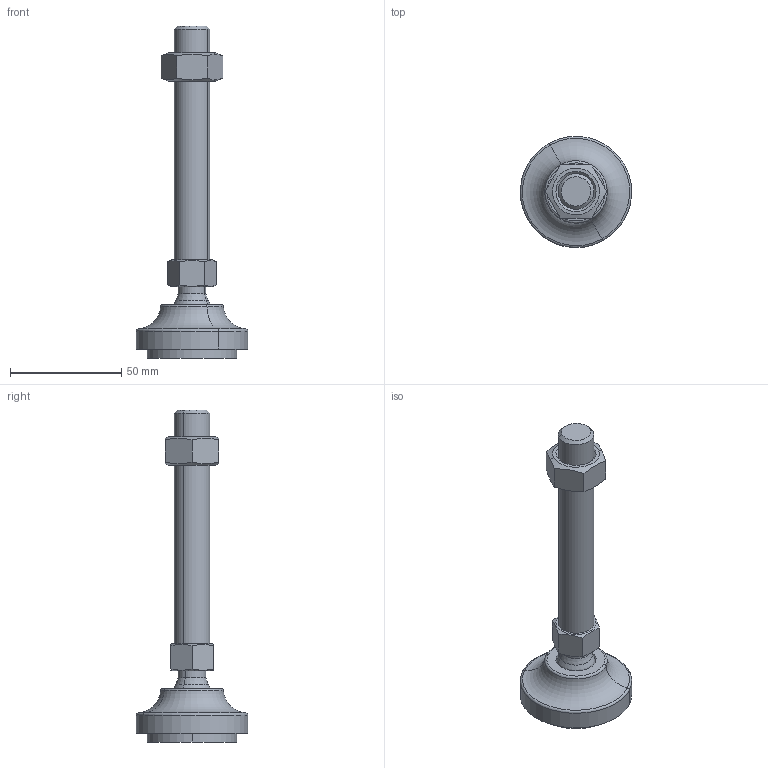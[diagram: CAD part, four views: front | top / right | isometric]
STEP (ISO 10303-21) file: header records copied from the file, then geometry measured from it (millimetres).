
FILE_DESCRIPTION(('CATIA V5 STEP Exchange'),'2;1');
FILE_NAME('C:\Users\ALI OZGUN\Desktop\alhan\saplama2\560501615AV.stp','2017-09-21T10:29:32+00:00',('none'),('none'),'CATIA Version 5 Release 21 GA (IN-10)','CATIA V5 STEP AP203','none');
FILE_SCHEMA(('CONFIG_CONTROL_DESIGN'));
Length unit declared in the file: millimetre
Products named in the file (1): 560501615AV
Bounding box: 49.99 x 49.99 x 149 mm (x, y, z)
Volume: 61118.9 mm3; surface area: 20127.4 mm2
Topology: 4 solids, 4 shells, 64 faces, 142 edges, 87 vertices
Faces by surface type: plane 22, cylinder 16, cone 16, torus 6, revolution 2, sphere 2
Entity records: 1931 total; most frequent: CARTESIAN_POINT 623, ORIENTED_EDGE 280, DIRECTION 198, EDGE_CURVE 140, AXIS2_PLACEMENT_3D 107, VERTEX_POINT 87, EDGE_LOOP 71, ADVANCED_FACE 64
